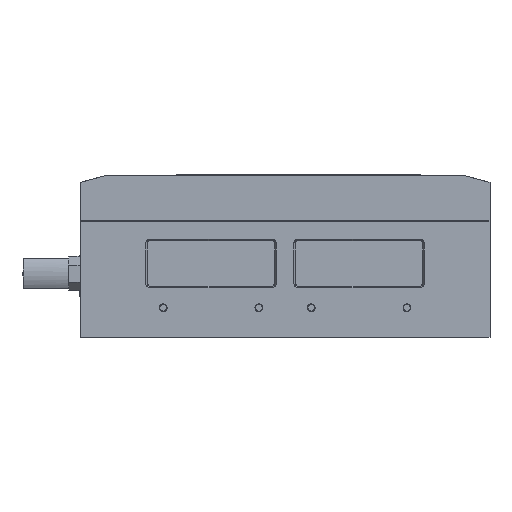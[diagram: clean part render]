
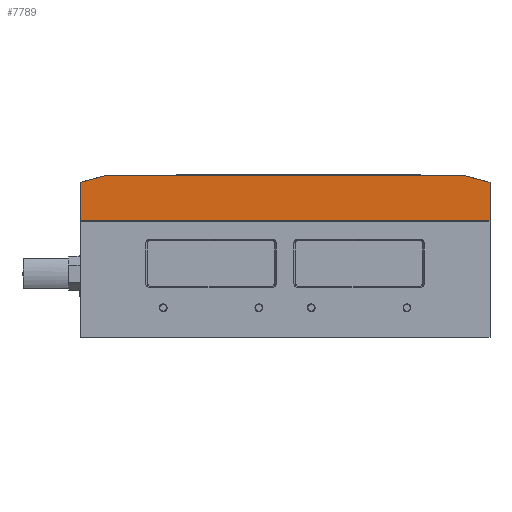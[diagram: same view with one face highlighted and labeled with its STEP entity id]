
A CAD part, front view. The second image highlights one B-rep face of the part: STEP entity #7789.
In plain terms, the highlighted planar face has unit normal (0, -1, 0).
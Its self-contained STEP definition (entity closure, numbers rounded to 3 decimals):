
#2660 = EDGE_LOOP ( 'NONE', ( #12633, #12627, #12522, #12601, #12461, #12689 ) ) ;
#6870 = AXIS2_PLACEMENT_3D ( 'NONE', #10041, #10046, #10047 ) ;
#7789 = ADVANCED_FACE ( 'NONE', ( #24328 ), #10044, .T. ) ;
#8157 = EDGE_CURVE ( 'NONE', #31352, #19015, #24871, .T. ) ;
#8177 = EDGE_CURVE ( 'NONE', #19015, #31801, #24897, .T. ) ;
#8180 = EDGE_CURVE ( 'NONE', #31726, #31352, #24894, .T. ) ;
#8198 = EDGE_CURVE ( 'NONE', #31761, #31801, #24927, .T. ) ;
#8624 = EDGE_CURVE ( 'NONE', #18872, #31726, #28518, .T. ) ;
#8685 = EDGE_CURVE ( 'NONE', #18872, #31761, #28537, .T. ) ;
#10041 = CARTESIAN_POINT ( 'NONE',  ( -90., -70., 49.25 ) ) ;
#10044 = PLANE ( 'NONE',  #6870 ) ;
#10046 = DIRECTION ( 'NONE',  ( 0., -1., 0. ) ) ;
#10047 = DIRECTION ( 'NONE',  ( 1., 0., 0. ) ) ;
#12461 = ORIENTED_EDGE ( 'NONE', *, *, #8198, .T. ) ;
#12522 = ORIENTED_EDGE ( 'NONE', *, *, #8624, .F. ) ;
#12601 = ORIENTED_EDGE ( 'NONE', *, *, #8685, .T. ) ;
#12627 = ORIENTED_EDGE ( 'NONE', *, *, #8180, .F. ) ;
#12633 = ORIENTED_EDGE ( 'NONE', *, *, #8157, .F. ) ;
#12689 = ORIENTED_EDGE ( 'NONE', *, *, #8177, .F. ) ;
#14252 = CARTESIAN_POINT ( 'NONE',  ( 90., -70., 61.35 ) ) ;
#14253 = DIRECTION ( 'NONE',  ( 0., 0., -1. ) ) ;
#14310 = CARTESIAN_POINT ( 'NONE',  ( 78., -70., 71.25 ) ) ;
#14328 = CARTESIAN_POINT ( 'NONE',  ( 0., -70., 51.25 ) ) ;
#14329 = DIRECTION ( 'NONE',  ( -1., 0., 0. ) ) ;
#14335 = DIRECTION ( 'NONE',  ( 0.966, 0., -0.259 ) ) ;
#14380 = CARTESIAN_POINT ( 'NONE',  ( -90., -70., 59.726 ) ) ;
#14390 = DIRECTION ( 'NONE',  ( 0., 0., -1. ) ) ;
#16740 = CARTESIAN_POINT ( 'NONE',  ( -78., -70., 71.25 ) ) ;
#16814 = CARTESIAN_POINT ( 'NONE',  ( 90., -70., 51.25 ) ) ;
#18872 = VERTEX_POINT ( 'NONE', #16740 ) ;
#19015 = VERTEX_POINT ( 'NONE', #16814 ) ;
#24328 = FACE_OUTER_BOUND ( 'NONE', #2660, .T. ) ;
#24867 = VECTOR ( 'NONE', #14253, 1000. ) ;
#24871 = LINE ( 'NONE', #14252, #24867 ) ;
#24894 = LINE ( 'NONE', #14310, #24905 ) ;
#24897 = LINE ( 'NONE', #14328, #24899 ) ;
#24899 = VECTOR ( 'NONE', #14329, 1000. ) ;
#24905 = VECTOR ( 'NONE', #14335, 1000. ) ;
#24927 = LINE ( 'NONE', #14380, #24938 ) ;
#24938 = VECTOR ( 'NONE', #14390, 1000. ) ;
#25408 = CARTESIAN_POINT ( 'NONE',  ( 90., -70., 68.035 ) ) ;
#25632 = CARTESIAN_POINT ( 'NONE',  ( 78., -70., 71.25 ) ) ;
#25667 = CARTESIAN_POINT ( 'NONE',  ( -90., -70., 68.035 ) ) ;
#25707 = CARTESIAN_POINT ( 'NONE',  ( -90., -70., 51.25 ) ) ;
#28518 = LINE ( 'NONE', #32841, #28520 ) ;
#28520 = VECTOR ( 'NONE', #32831, 1000. ) ;
#28537 = LINE ( 'NONE', #32893, #28565 ) ;
#28565 = VECTOR ( 'NONE', #32919, 1000. ) ;
#31352 = VERTEX_POINT ( 'NONE', #25408 ) ;
#31726 = VERTEX_POINT ( 'NONE', #25632 ) ;
#31761 = VERTEX_POINT ( 'NONE', #25667 ) ;
#31801 = VERTEX_POINT ( 'NONE', #25707 ) ;
#32831 = DIRECTION ( 'NONE',  ( 1., 0., 0. ) ) ;
#32841 = CARTESIAN_POINT ( 'NONE',  ( 0., -70., 71.25 ) ) ;
#32893 = CARTESIAN_POINT ( 'NONE',  ( -84., -70., 69.642 ) ) ;
#32919 = DIRECTION ( 'NONE',  ( -0.966, 0., -0.259 ) ) ;
